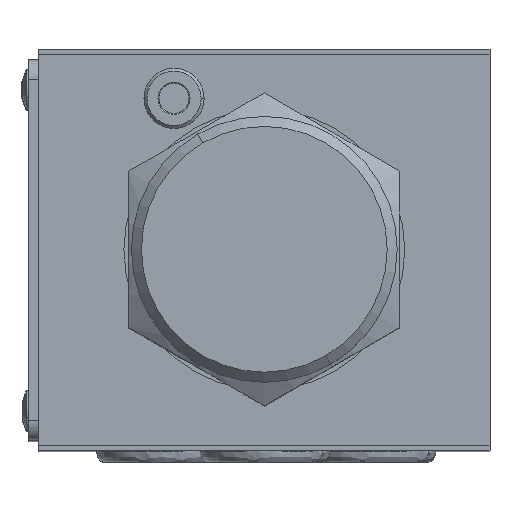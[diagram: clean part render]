
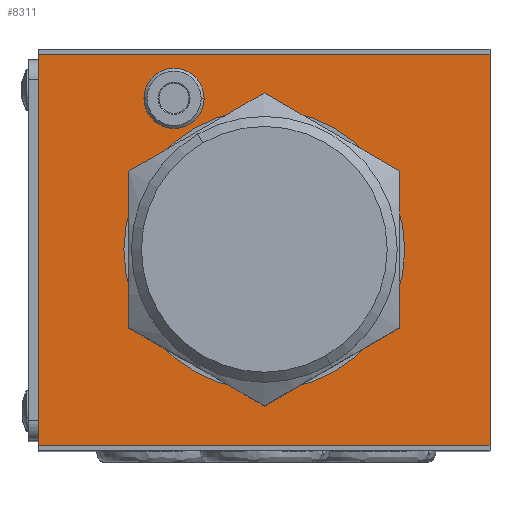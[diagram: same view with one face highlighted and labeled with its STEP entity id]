
A CAD part, top view. The second image highlights one B-rep face of the part: STEP entity #8311.
In plain terms, the highlighted planar face has unit normal (0, 0, 1).
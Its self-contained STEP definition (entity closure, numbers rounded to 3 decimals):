
#27 = VERTEX_POINT ( 'NONE', #56335 ) ;
#338 = VERTEX_POINT ( 'NONE', #17297 ) ;
#827 = VECTOR ( 'NONE', #38216, 1000. ) ;
#1076 = CARTESIAN_POINT ( 'NONE',  ( -22.5, 23., 46.5 ) ) ;
#1717 = CARTESIAN_POINT ( 'NONE',  ( -22.5, -16., 46.5 ) ) ;
#2295 = EDGE_LOOP ( 'NONE', ( #22691, #38087, #30204, #58951 ) ) ;
#2327 = PLANE ( 'NONE',  #27708 ) ;
#2370 = EDGE_CURVE ( 'NONE', #55304, #338, #54819, .T. ) ;
#3736 = EDGE_LOOP ( 'NONE', ( #29488, #55441 ) ) ;
#4058 = DIRECTION ( 'NONE',  ( 0., -1., 0. ) ) ;
#4530 = DIRECTION ( 'NONE',  ( 0., 0., 1. ) ) ;
#4851 = EDGE_CURVE ( 'NONE', #27, #55304, #57946, .T. ) ;
#6329 = ORIENTED_EDGE ( 'NONE', *, *, #16812, .F. ) ;
#6592 = VERTEX_POINT ( 'NONE', #43758 ) ;
#7808 = DIRECTION ( 'NONE',  ( -1., 0., 0. ) ) ;
#8311 = ADVANCED_FACE ( 'NONE', ( #27021, #48175, #46604 ), #2327, .F. ) ;
#11278 = VERTEX_POINT ( 'NONE', #1717 ) ;
#11532 = DIRECTION ( 'NONE',  ( 1., 0., 0. ) ) ;
#11617 = DIRECTION ( 'NONE',  ( 0., 0., 1. ) ) ;
#12304 = CARTESIAN_POINT ( 'NONE',  ( -22.5, 23.5, 46.5 ) ) ;
#12537 = LINE ( 'NONE', #12304, #827 ) ;
#14139 = CARTESIAN_POINT ( 'NONE',  ( 0., 3.5, 46.5 ) ) ;
#14493 = CARTESIAN_POINT ( 'NONE',  ( -9., 18.6, 46.5 ) ) ;
#16492 = EDGE_CURVE ( 'NONE', #34031, #32297, #31804, .T. ) ;
#16812 = EDGE_CURVE ( 'NONE', #54764, #6592, #31730, .T. ) ;
#17134 = DIRECTION ( 'NONE',  ( 0., 0., 1. ) ) ;
#17297 = CARTESIAN_POINT ( 'NONE',  ( 22.5, -16., 46.5 ) ) ;
#17791 = CIRCLE ( 'NONE', #42579, 14. ) ;
#19946 = DIRECTION ( 'NONE',  ( 1., 0., 0. ) ) ;
#21763 = LINE ( 'NONE', #52604, #36520 ) ;
#22691 = ORIENTED_EDGE ( 'NONE', *, *, #61198, .F. ) ;
#22793 = VECTOR ( 'NONE', #11532, 1000. ) ;
#27021 = FACE_BOUND ( 'NONE', #3736, .T. ) ;
#27053 = CARTESIAN_POINT ( 'NONE',  ( -12., 18.6, 46.5 ) ) ;
#27201 = CARTESIAN_POINT ( 'NONE',  ( 22.5, -16.5, 46.5 ) ) ;
#27708 = AXIS2_PLACEMENT_3D ( 'NONE', #27201, #57818, #52358 ) ;
#29488 = ORIENTED_EDGE ( 'NONE', *, *, #30942, .F. ) ;
#30204 = ORIENTED_EDGE ( 'NONE', *, *, #2370, .F. ) ;
#30942 = EDGE_CURVE ( 'NONE', #32297, #34031, #17791, .T. ) ;
#31379 = ORIENTED_EDGE ( 'NONE', *, *, #33886, .F. ) ;
#31664 = EDGE_CURVE ( 'NONE', #338, #11278, #21763, .T. ) ;
#31730 = CIRCLE ( 'NONE', #41155, 3. ) ;
#31804 = CIRCLE ( 'NONE', #37717, 14. ) ;
#31926 = CARTESIAN_POINT ( 'NONE',  ( -9., 18.6, 46.5 ) ) ;
#32297 = VERTEX_POINT ( 'NONE', #53456 ) ;
#33886 = EDGE_CURVE ( 'NONE', #6592, #54764, #39986, .T. ) ;
#34031 = VERTEX_POINT ( 'NONE', #48959 ) ;
#35198 = VECTOR ( 'NONE', #4058, 1000. ) ;
#35271 = CARTESIAN_POINT ( 'NONE',  ( 22.5, 23., 46.5 ) ) ;
#36451 = DIRECTION ( 'NONE',  ( 1., 0., 0. ) ) ;
#36520 = VECTOR ( 'NONE', #7808, 1000. ) ;
#37717 = AXIS2_PLACEMENT_3D ( 'NONE', #14139, #4530, #39004 ) ;
#38087 = ORIENTED_EDGE ( 'NONE', *, *, #31664, .F. ) ;
#38216 = DIRECTION ( 'NONE',  ( 0., 1., 0. ) ) ;
#39004 = DIRECTION ( 'NONE',  ( 1., 0., 0. ) ) ;
#39986 = CIRCLE ( 'NONE', #44022, 3. ) ;
#41155 = AXIS2_PLACEMENT_3D ( 'NONE', #14493, #64291, #19946 ) ;
#42579 = AXIS2_PLACEMENT_3D ( 'NONE', #51825, #11617, #36451 ) ;
#43235 = EDGE_LOOP ( 'NONE', ( #31379, #6329 ) ) ;
#43758 = CARTESIAN_POINT ( 'NONE',  ( -6., 18.6, 46.5 ) ) ;
#44022 = AXIS2_PLACEMENT_3D ( 'NONE', #31926, #17134, #52104 ) ;
#46604 = FACE_OUTER_BOUND ( 'NONE', #2295, .T. ) ;
#48175 = FACE_BOUND ( 'NONE', #43235, .T. ) ;
#48959 = CARTESIAN_POINT ( 'NONE',  ( -14., 3.5, 46.5 ) ) ;
#49490 = CARTESIAN_POINT ( 'NONE',  ( 22.5, 23.5, 46.5 ) ) ;
#51825 = CARTESIAN_POINT ( 'NONE',  ( 0., 3.5, 46.5 ) ) ;
#52104 = DIRECTION ( 'NONE',  ( 1., 0., 0. ) ) ;
#52358 = DIRECTION ( 'NONE',  ( -1., 0., 0. ) ) ;
#52604 = CARTESIAN_POINT ( 'NONE',  ( 22.5, -16., 46.5 ) ) ;
#53456 = CARTESIAN_POINT ( 'NONE',  ( 14., 3.5, 46.5 ) ) ;
#54764 = VERTEX_POINT ( 'NONE', #27053 ) ;
#54819 = LINE ( 'NONE', #49490, #35198 ) ;
#55304 = VERTEX_POINT ( 'NONE', #35271 ) ;
#55441 = ORIENTED_EDGE ( 'NONE', *, *, #16492, .F. ) ;
#56335 = CARTESIAN_POINT ( 'NONE',  ( -22.5, 23., 46.5 ) ) ;
#57818 = DIRECTION ( 'NONE',  ( 0., 0., -1. ) ) ;
#57946 = LINE ( 'NONE', #1076, #22793 ) ;
#58951 = ORIENTED_EDGE ( 'NONE', *, *, #4851, .F. ) ;
#61198 = EDGE_CURVE ( 'NONE', #11278, #27, #12537, .T. ) ;
#64291 = DIRECTION ( 'NONE',  ( 0., 0., 1. ) ) ;
